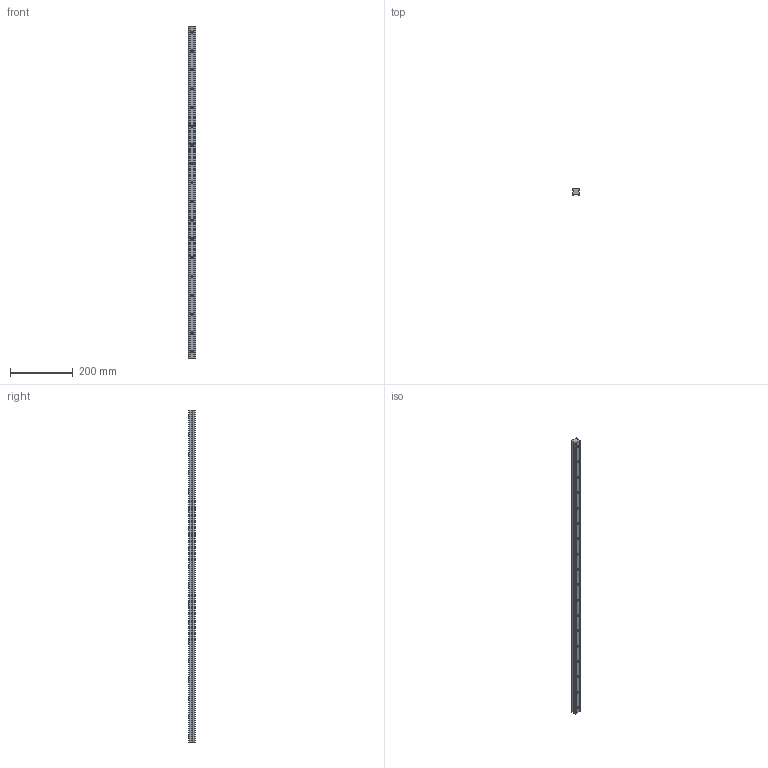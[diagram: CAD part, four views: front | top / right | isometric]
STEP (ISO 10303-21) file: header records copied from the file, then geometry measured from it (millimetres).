
FILE_DESCRIPTION (( 'STEP AP203' ), '1' );
FILE_NAME ('L1016.BL25-1060.step', '2019-06-12T12:06:33', ( '' ), ( '' ), 'SwSTEP 2.0', 'SolidWorks 2017', '' );
FILE_SCHEMA (( 'CONFIG_CONTROL_DESIGN' ));
Length unit declared in the file: millimetre
Products named in the file (1): L1016.BL25-1060
Bounding box: 23 x 19.2 x 1060 mm (x, y, z)
Volume: 390367.6 mm3; surface area: 100884.3 mm2
Topology: 1 solids, 1 shells, 116 faces, 288 edges, 192 vertices
Faces by surface type: cylinder 76, plane 40
Entity records: 3673 total; most frequent: DIRECTION 674, CARTESIAN_POINT 597, ORIENTED_EDGE 576, EDGE_CURVE 288, AXIS2_PLACEMENT_3D 269, VERTEX_POINT 192, EDGE_LOOP 170, CIRCLE 152
